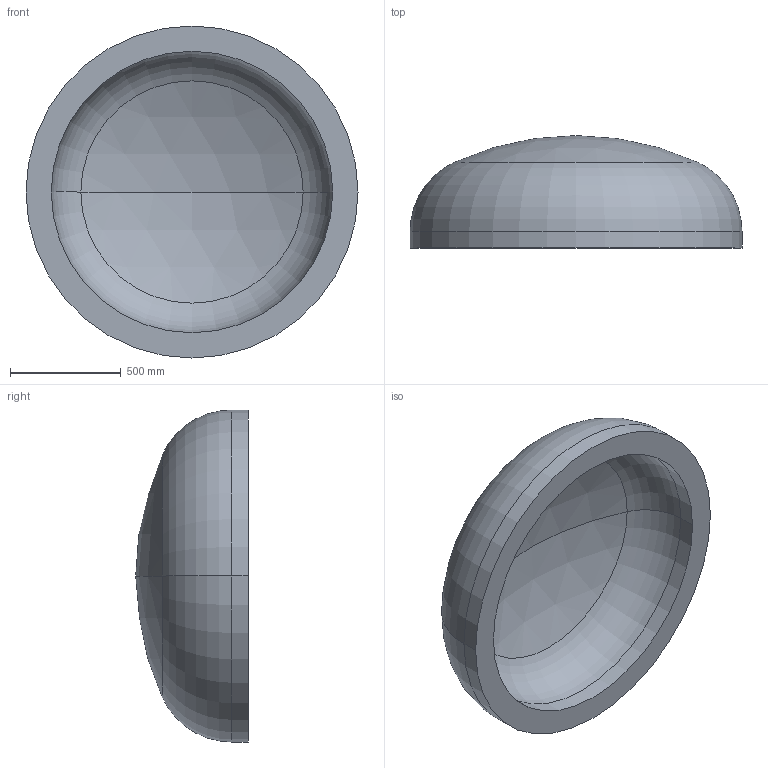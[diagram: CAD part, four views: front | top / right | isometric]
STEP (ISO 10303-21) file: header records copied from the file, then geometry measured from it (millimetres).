
FILE_DESCRIPTION (( 'STEP AP203' ), '1' );
FILE_NAME ('DIN 28013 Korbbogenform_-_Boden DIN 28013 - 1500 x 75 - I - s=114.step', '2016-07-01T11:00:30', ( '' ), ( '' ), 'SwSTEP 2.0', 'SolidWorks 2013', '' );
FILE_SCHEMA (( 'CONFIG_CONTROL_DESIGN' ));
Length unit declared in the file: millimetre
Products named in the file (1): DIN 28013 Korbbogenform_-_Boden DIN 28013 - 1500 x 75 - I - s=114
Bounding box: 1500 x 508.06 x 1500 mm (x, y, z)
Volume: 290552773.7 mm3; surface area: 5621018.9 mm2
Topology: 1 solids, 1 shells, 13 faces, 24 edges, 14 vertices
Faces by surface type: torus 4, cylinder 4, sphere 4, plane 1
Entity records: 407 total; most frequent: DIRECTION 72, CARTESIAN_POINT 52, ORIENTED_EDGE 48, AXIS2_PLACEMENT_3D 34, EDGE_CURVE 24, CIRCLE 20, EDGE_LOOP 14, VERTEX_POINT 14
